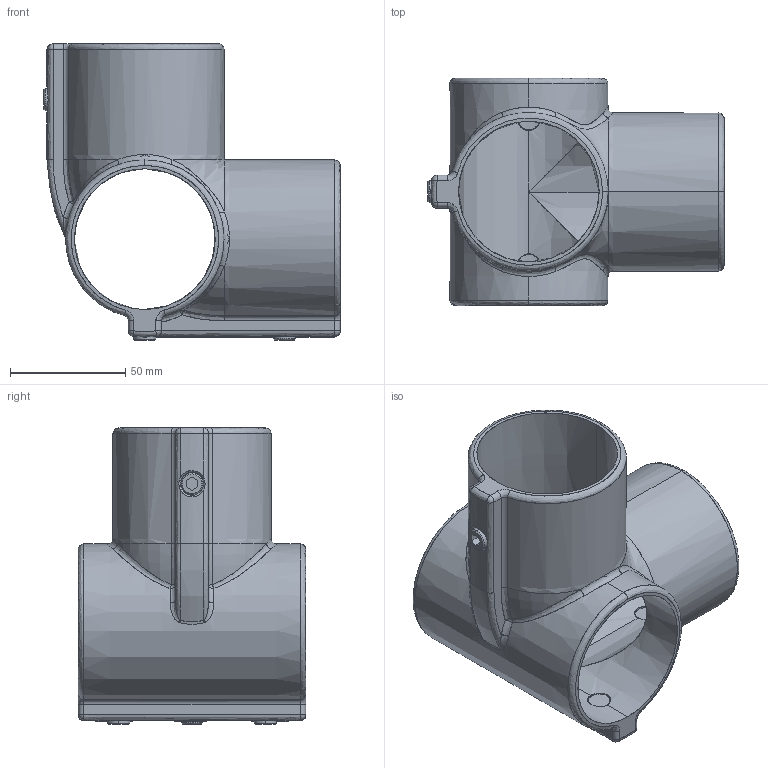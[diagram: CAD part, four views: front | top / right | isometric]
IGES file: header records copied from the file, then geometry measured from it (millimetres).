
Global section: file name: 0353-80-06; native system: VariCAD 2012-1.04; preprocessor: 5.3; author: LVVS3874K00E; organization: Elphe, Inc.; date: 20120610.224022; units: millimetre
Bounding box: 128.32 x 98.55 x 128.32 mm (x, y, z)
Surface area: 83028.4 mm2 (no closed solid volume)
Topology: 0 solids, 0 shells, 188 faces, 952 edges, 940 vertices
Faces by surface type: revolution 122, bspline 66
